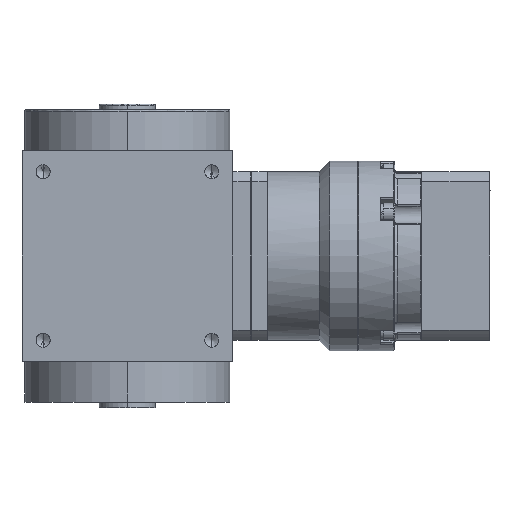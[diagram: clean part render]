
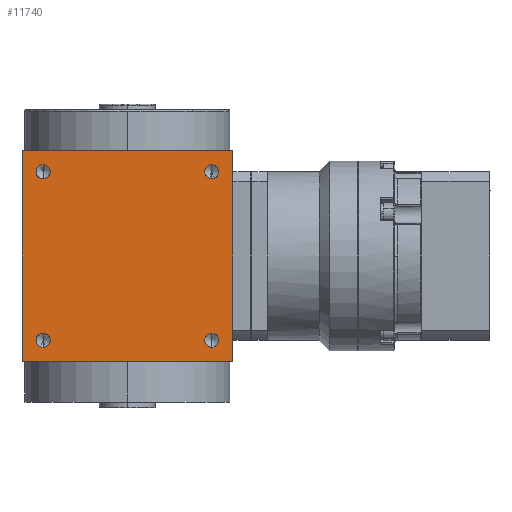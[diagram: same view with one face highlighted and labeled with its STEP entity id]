
A CAD part, left-side view. The second image highlights one B-rep face of the part: STEP entity #11740.
In plain terms, the highlighted planar face has unit normal (-1, 0, 0).
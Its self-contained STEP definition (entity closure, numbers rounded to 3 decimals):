
#112 = VERTEX_POINT ( 'NONE', #2990 ) ;
#341 = CARTESIAN_POINT ( 'NONE',  ( -37.5, -30., 27.5 ) ) ;
#1030 = AXIS2_PLACEMENT_3D ( 'NONE', #31343, #30819, #23035 ) ;
#1716 = VERTEX_POINT ( 'NONE', #4420 ) ;
#2538 = DIRECTION ( 'NONE',  ( 0., 0., 1. ) ) ;
#2767 = CARTESIAN_POINT ( 'NONE',  ( -37.5, 37.5, -37.5 ) ) ;
#2790 = EDGE_CURVE ( 'NONE', #1716, #15701, #16447, .T. ) ;
#2990 = CARTESIAN_POINT ( 'NONE',  ( -37.5, 30., -32.5 ) ) ;
#3381 = ORIENTED_EDGE ( 'NONE', *, *, #27007, .T. ) ;
#4007 = CIRCLE ( 'NONE', #26033, 2.5 ) ;
#4420 = CARTESIAN_POINT ( 'NONE',  ( -37.5, 37.5, 37.5 ) ) ;
#4581 = CIRCLE ( 'NONE', #20045, 2.5 ) ;
#4884 = EDGE_LOOP ( 'NONE', ( #21746, #18170 ) ) ;
#4898 = VERTEX_POINT ( 'NONE', #5274 ) ;
#5201 = DIRECTION ( 'NONE',  ( 0., 0., 1. ) ) ;
#5274 = CARTESIAN_POINT ( 'NONE',  ( -37.5, -37.5, -37.5 ) ) ;
#5542 = VECTOR ( 'NONE', #13524, 1000. ) ;
#5648 = CIRCLE ( 'NONE', #24916, 2.5 ) ;
#5756 = CARTESIAN_POINT ( 'NONE',  ( -37.5, -30., -32.5 ) ) ;
#5933 = ORIENTED_EDGE ( 'NONE', *, *, #30156, .T. ) ;
#6552 = VECTOR ( 'NONE', #21913, 1000. ) ;
#7284 = FACE_BOUND ( 'NONE', #4884, .T. ) ;
#7553 = CARTESIAN_POINT ( 'NONE',  ( -37.5, 30., 30. ) ) ;
#7619 = DIRECTION ( 'NONE',  ( 0., -1., 0. ) ) ;
#8367 = CARTESIAN_POINT ( 'NONE',  ( -37.5, 0., 37.5 ) ) ;
#8412 = CIRCLE ( 'NONE', #31513, 2.5 ) ;
#8582 = VERTEX_POINT ( 'NONE', #30560 ) ;
#9514 = FACE_BOUND ( 'NONE', #13422, .T. ) ;
#9752 = CARTESIAN_POINT ( 'NONE',  ( -37.5, -30., 30. ) ) ;
#9944 = CARTESIAN_POINT ( 'NONE',  ( -37.5, 30., -30. ) ) ;
#10026 = CIRCLE ( 'NONE', #32096, 2.5 ) ;
#10215 = DIRECTION ( 'NONE',  ( 1., 0., 0. ) ) ;
#10286 = DIRECTION ( 'NONE',  ( 0., 0., 1. ) ) ;
#10464 = CIRCLE ( 'NONE', #1030, 2.5 ) ;
#10774 = AXIS2_PLACEMENT_3D ( 'NONE', #33702, #25874, #27953 ) ;
#11477 = CIRCLE ( 'NONE', #24169, 2.5 ) ;
#11740 = ADVANCED_FACE ( 'NONE', ( #22965, #30921, #7284, #9514, #28304 ), #20060, .T. ) ;
#11849 = VERTEX_POINT ( 'NONE', #13609 ) ;
#12524 = EDGE_LOOP ( 'NONE', ( #31718, #13555 ) ) ;
#13114 = DIRECTION ( 'NONE',  ( 1., 0., 0. ) ) ;
#13422 = EDGE_LOOP ( 'NONE', ( #24195, #26358 ) ) ;
#13524 = DIRECTION ( 'NONE',  ( 0., -1., 0. ) ) ;
#13555 = ORIENTED_EDGE ( 'NONE', *, *, #17167, .T. ) ;
#13609 = CARTESIAN_POINT ( 'NONE',  ( -37.5, 30., -27.5 ) ) ;
#15405 = DIRECTION ( 'NONE',  ( 0., 0., 1. ) ) ;
#15615 = CARTESIAN_POINT ( 'NONE',  ( -37.5, -30., -30. ) ) ;
#15701 = VERTEX_POINT ( 'NONE', #16987 ) ;
#15813 = VECTOR ( 'NONE', #7619, 1000. ) ;
#16034 = LINE ( 'NONE', #16557, #6552 ) ;
#16447 = LINE ( 'NONE', #8367, #5542 ) ;
#16557 = CARTESIAN_POINT ( 'NONE',  ( -37.5, 37.5, -37.5 ) ) ;
#16702 = VERTEX_POINT ( 'NONE', #21711 ) ;
#16987 = CARTESIAN_POINT ( 'NONE',  ( -37.5, -37.5, 37.5 ) ) ;
#17167 = EDGE_CURVE ( 'NONE', #30274, #18557, #10026, .T. ) ;
#17381 = VERTEX_POINT ( 'NONE', #5756 ) ;
#18054 = DIRECTION ( 'NONE',  ( 1., 0., 0. ) ) ;
#18170 = ORIENTED_EDGE ( 'NONE', *, *, #23113, .T. ) ;
#18507 = EDGE_CURVE ( 'NONE', #18557, #30274, #10464, .T. ) ;
#18557 = VERTEX_POINT ( 'NONE', #28374 ) ;
#18666 = CARTESIAN_POINT ( 'NONE',  ( -37.5, 30., -30. ) ) ;
#18701 = DIRECTION ( 'NONE',  ( 0., 0., 1. ) ) ;
#18946 = AXIS2_PLACEMENT_3D ( 'NONE', #18666, #10215, #5201 ) ;
#19039 = ORIENTED_EDGE ( 'NONE', *, *, #31738, .T. ) ;
#20045 = AXIS2_PLACEMENT_3D ( 'NONE', #26792, #26277, #18701 ) ;
#20060 = PLANE ( 'NONE',  #10774 ) ;
#20076 = CARTESIAN_POINT ( 'NONE',  ( -37.5, 37.5, -37.5 ) ) ;
#21095 = VERTEX_POINT ( 'NONE', #32908 ) ;
#21711 = CARTESIAN_POINT ( 'NONE',  ( -37.5, -30., -27.5 ) ) ;
#21746 = ORIENTED_EDGE ( 'NONE', *, *, #33030, .T. ) ;
#21913 = DIRECTION ( 'NONE',  ( 0., 0., 1. ) ) ;
#22726 = EDGE_CURVE ( 'NONE', #21095, #8582, #4581, .T. ) ;
#22892 = DIRECTION ( 'NONE',  ( 1., 0., 0. ) ) ;
#22965 = FACE_BOUND ( 'NONE', #12524, .T. ) ;
#23035 = DIRECTION ( 'NONE',  ( 0., 0., 1. ) ) ;
#23107 = EDGE_LOOP ( 'NONE', ( #3381, #30330 ) ) ;
#23113 = EDGE_CURVE ( 'NONE', #112, #11849, #23885, .T. ) ;
#23885 = CIRCLE ( 'NONE', #18946, 2.5 ) ;
#24169 = AXIS2_PLACEMENT_3D ( 'NONE', #33715, #13114, #28136 ) ;
#24195 = ORIENTED_EDGE ( 'NONE', *, *, #22726, .T. ) ;
#24916 = AXIS2_PLACEMENT_3D ( 'NONE', #7553, #18054, #10286 ) ;
#25834 = ORIENTED_EDGE ( 'NONE', *, *, #27135, .F. ) ;
#25874 = DIRECTION ( 'NONE',  ( -1., 0., 0. ) ) ;
#25964 = DIRECTION ( 'NONE',  ( 0., 0., 1. ) ) ;
#26033 = AXIS2_PLACEMENT_3D ( 'NONE', #9944, #22892, #2538 ) ;
#26152 = DIRECTION ( 'NONE',  ( 0., 0., 1. ) ) ;
#26277 = DIRECTION ( 'NONE',  ( 1., 0., 0. ) ) ;
#26358 = ORIENTED_EDGE ( 'NONE', *, *, #33113, .T. ) ;
#26792 = CARTESIAN_POINT ( 'NONE',  ( -37.5, 30., 30. ) ) ;
#26880 = VERTEX_POINT ( 'NONE', #20076 ) ;
#27007 = EDGE_CURVE ( 'NONE', #16702, #17381, #11477, .T. ) ;
#27135 = EDGE_CURVE ( 'NONE', #26880, #1716, #16034, .T. ) ;
#27874 = LINE ( 'NONE', #30839, #33723 ) ;
#27953 = DIRECTION ( 'NONE',  ( 0., 0., 1. ) ) ;
#28021 = DIRECTION ( 'NONE',  ( 1., 0., 0. ) ) ;
#28136 = DIRECTION ( 'NONE',  ( 0., 0., 1. ) ) ;
#28230 = DIRECTION ( 'NONE',  ( 1., 0., 0. ) ) ;
#28304 = FACE_OUTER_BOUND ( 'NONE', #30837, .T. ) ;
#28374 = CARTESIAN_POINT ( 'NONE',  ( -37.5, -30., 32.5 ) ) ;
#30156 = EDGE_CURVE ( 'NONE', #26880, #4898, #33541, .T. ) ;
#30197 = ORIENTED_EDGE ( 'NONE', *, *, #2790, .F. ) ;
#30274 = VERTEX_POINT ( 'NONE', #341 ) ;
#30330 = ORIENTED_EDGE ( 'NONE', *, *, #33042, .T. ) ;
#30560 = CARTESIAN_POINT ( 'NONE',  ( -37.5, 30., 27.5 ) ) ;
#30819 = DIRECTION ( 'NONE',  ( 1., 0., 0. ) ) ;
#30837 = EDGE_LOOP ( 'NONE', ( #19039, #30197, #25834, #5933 ) ) ;
#30839 = CARTESIAN_POINT ( 'NONE',  ( -37.5, -37.5, -37.5 ) ) ;
#30921 = FACE_BOUND ( 'NONE', #23107, .T. ) ;
#31343 = CARTESIAN_POINT ( 'NONE',  ( -37.5, -30., 30. ) ) ;
#31513 = AXIS2_PLACEMENT_3D ( 'NONE', #15615, #28230, #26152 ) ;
#31718 = ORIENTED_EDGE ( 'NONE', *, *, #18507, .T. ) ;
#31738 = EDGE_CURVE ( 'NONE', #4898, #15701, #27874, .T. ) ;
#32096 = AXIS2_PLACEMENT_3D ( 'NONE', #9752, #28021, #15405 ) ;
#32908 = CARTESIAN_POINT ( 'NONE',  ( -37.5, 30., 32.5 ) ) ;
#33030 = EDGE_CURVE ( 'NONE', #11849, #112, #4007, .T. ) ;
#33042 = EDGE_CURVE ( 'NONE', #17381, #16702, #8412, .T. ) ;
#33113 = EDGE_CURVE ( 'NONE', #8582, #21095, #5648, .T. ) ;
#33541 = LINE ( 'NONE', #2767, #15813 ) ;
#33702 = CARTESIAN_POINT ( 'NONE',  ( -37.5, 37.5, -37.5 ) ) ;
#33715 = CARTESIAN_POINT ( 'NONE',  ( -37.5, -30., -30. ) ) ;
#33723 = VECTOR ( 'NONE', #25964, 1000. ) ;
